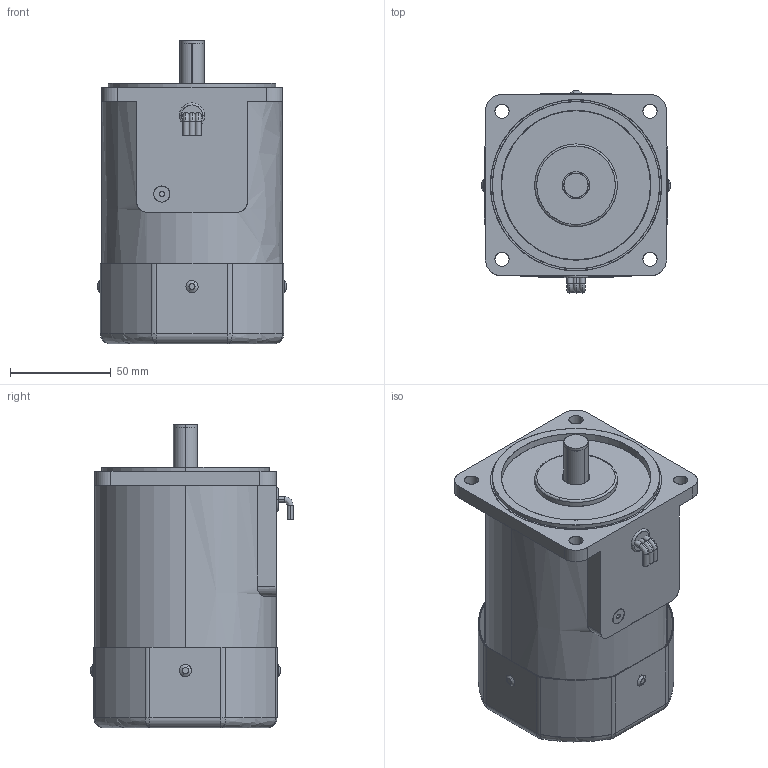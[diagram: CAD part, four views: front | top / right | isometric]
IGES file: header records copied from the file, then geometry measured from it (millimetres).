
Start section: SolidWorks IGES file using analytic representation for surfaces
Bounding box: 94 x 100.5 x 151 mm (x, y, z)
Surface area: 95176.3 mm2 (no closed solid volume)
Topology: 0 solids, 0 shells, 143 faces, 2304 edges, 2296 vertices
Faces by surface type: revolution 78, bspline 65
